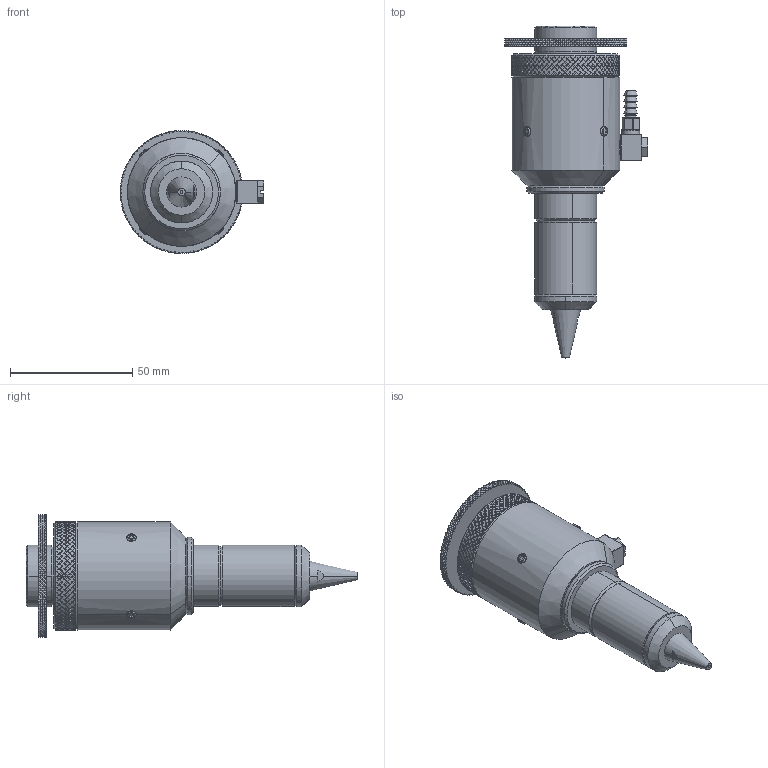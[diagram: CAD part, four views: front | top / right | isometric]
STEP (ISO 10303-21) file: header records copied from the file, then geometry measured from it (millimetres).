
FILE_DESCRIPTION (( 'STEP AP214' ), '1' );
FILE_NAME ('PHA-19-28-095-SB.STEP', '2016-08-18T14:09:46', ( '' ), ( '' ), 'SwSTEP 2.0', 'SolidWorks 2016', '' );
FILE_SCHEMA (( 'AUTOMOTIVE_DESIGN' ));
Length unit declared in the file: inch
Products named in the file (1): PHA-19-28-095-SB
Bounding box: 58.8 x 136.02 x 50.29 mm (x, y, z)
Volume: 112064.3 mm3; surface area: 22276.4 mm2
Topology: 1 solids, 1 shells, 5609 faces, 14129 edges, 8530 vertices
Faces by surface type: plane 4525, cylinder 989, cone 38, torus 37, sphere 20
Entity records: 162255 total; most frequent: CARTESIAN_POINT 40405, ORIENTED_EDGE 28218, DIRECTION 21962, EDGE_CURVE 14109, LINE 9648, VECTOR 9648, VERTEX_POINT 8530, AXIS2_PLACEMENT_3D 6157
